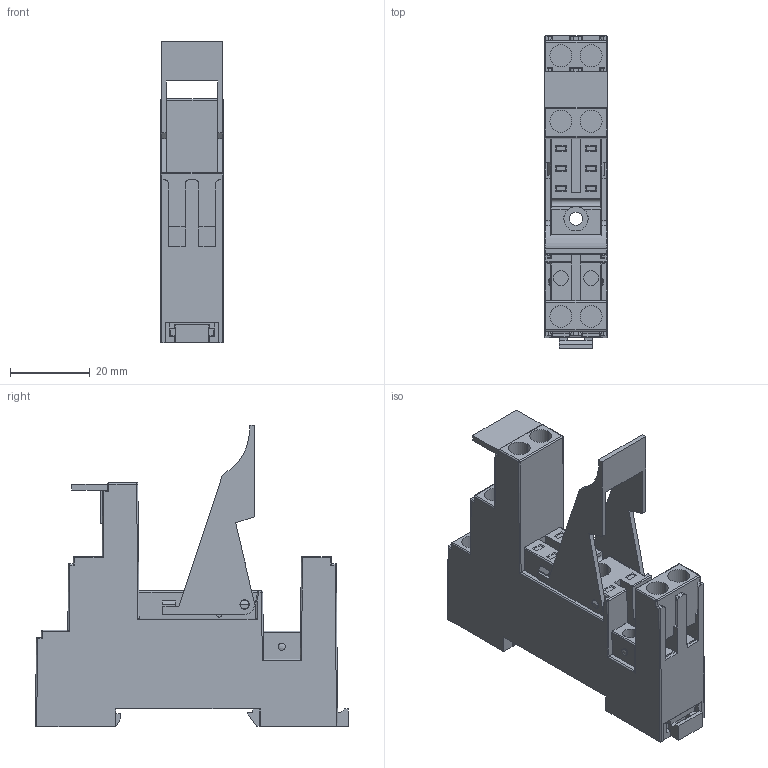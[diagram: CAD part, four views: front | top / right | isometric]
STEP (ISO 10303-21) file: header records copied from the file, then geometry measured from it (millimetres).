
FILE_DESCRIPTION (( 'STEP AP214' ), '1' );
FILE_NAME ('S16-M.STEP', '2024-04-15T09:17:15', ( '' ), ( '' ), 'SwSTEP 2.0', 'SolidWorks 2022', '' );
FILE_SCHEMA (( 'AUTOMOTIVE_DESIGN' ));
Length unit declared in the file: millimetre
Products named in the file (1): S16-M
Bounding box: 15.7 x 78.5 x 75.7 mm (x, y, z)
Volume: 37584.9 mm3; surface area: 18539.9 mm2
Topology: 1 solids, 17 shells, 637 faces, 1638 edges, 1045 vertices
Faces by surface type: plane 461, cylinder 155, bspline 21
Entity records: 26239 total; most frequent: CARTESIAN_POINT 3941, ORIENTED_EDGE 3274, DIRECTION 2974, EDGE_CURVE 1637, VECTOR 1330, LINE 1330, VERTEX_POINT 1045, AXIS2_PLACEMENT_3D 822
